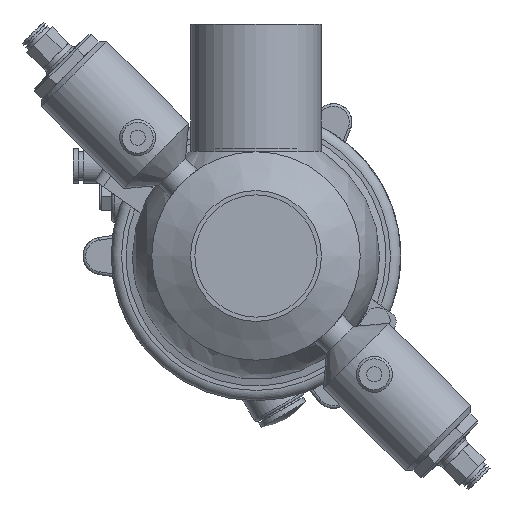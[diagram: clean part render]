
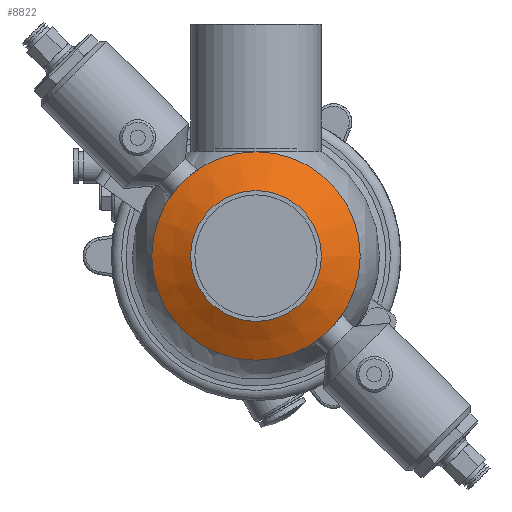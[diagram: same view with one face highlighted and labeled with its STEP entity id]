
A CAD part, front view. The second image highlights one B-rep face of the part: STEP entity #8822.
In plain terms, the highlighted conical face has half-angle 60 degrees and reference radius 40.5 mm.
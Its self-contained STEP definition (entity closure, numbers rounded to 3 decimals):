
#1137 = VERTEX_POINT ( 'NONE', #45678 ) ;
#1366 = DIRECTION ( 'NONE',  ( 0., 1., 0. ) ) ;
#5313 = ORIENTED_EDGE ( 'NONE', *, *, #38979, .F. ) ;
#8822 = ADVANCED_FACE ( 'NONE', ( #41819, #47210 ), #40304, .T. ) ;
#12067 = ORIENTED_EDGE ( 'NONE', *, *, #37909, .T. ) ;
#13271 = DIRECTION ( 'NONE',  ( 0., 0., 1. ) ) ;
#15814 = DIRECTION ( 'NONE',  ( 0., 0., 1. ) ) ;
#20088 = VERTEX_POINT ( 'NONE', #49535 ) ;
#21781 = CIRCLE ( 'NONE', #54512, 25.4 ) ;
#32185 = CARTESIAN_POINT ( 'NONE',  ( 0., -48., 0. ) ) ;
#32636 = DIRECTION ( 'NONE',  ( 0., 0., 1. ) ) ;
#36041 = CARTESIAN_POINT ( 'NONE',  ( 0., -56.718, 0. ) ) ;
#37677 = DIRECTION ( 'NONE',  ( 0., 1., 0. ) ) ;
#37909 = EDGE_CURVE ( 'NONE', #1137, #1137, #21781, .T. ) ;
#38979 = EDGE_CURVE ( 'NONE', #20088, #20088, #50674, .T. ) ;
#39265 = AXIS2_PLACEMENT_3D ( 'NONE', #32185, #37677, #13271 ) ;
#40304 = CONICAL_SURFACE ( 'NONE', #39265, 40.5, 1.047 ) ;
#41819 = FACE_BOUND ( 'NONE', #60370, .T. ) ;
#45678 = CARTESIAN_POINT ( 'NONE',  ( 0., -56.718, 25.4 ) ) ;
#47210 = FACE_OUTER_BOUND ( 'NONE', #54135, .T. ) ;
#49535 = CARTESIAN_POINT ( 'NONE',  ( 0., -48., 40.5 ) ) ;
#50674 = CIRCLE ( 'NONE', #63050, 40.5 ) ;
#50878 = CARTESIAN_POINT ( 'NONE',  ( 0., -48., 0. ) ) ;
#51497 = DIRECTION ( 'NONE',  ( 0., 1., 0. ) ) ;
#54135 = EDGE_LOOP ( 'NONE', ( #5313 ) ) ;
#54512 = AXIS2_PLACEMENT_3D ( 'NONE', #36041, #1366, #15814 ) ;
#60370 = EDGE_LOOP ( 'NONE', ( #12067 ) ) ;
#63050 = AXIS2_PLACEMENT_3D ( 'NONE', #50878, #51497, #32636 ) ;
